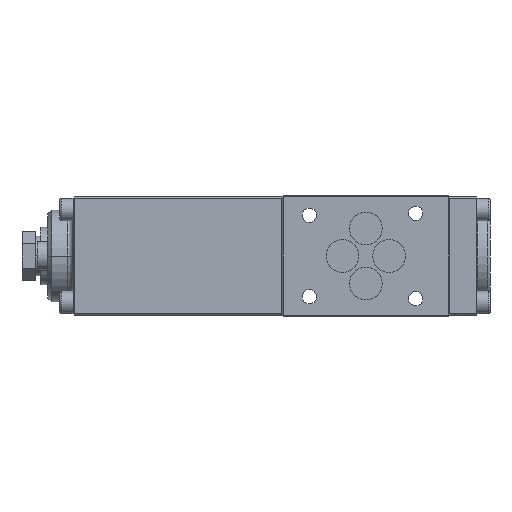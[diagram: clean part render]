
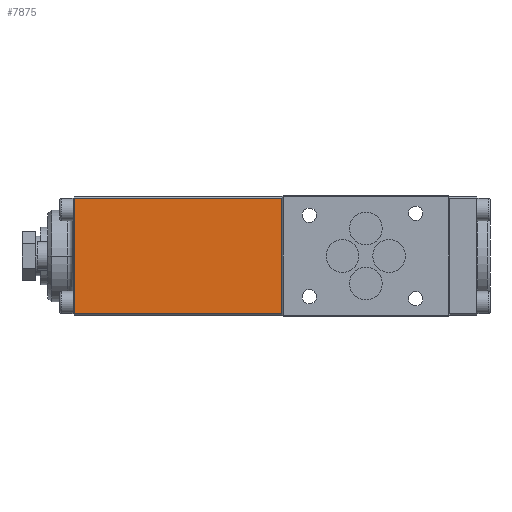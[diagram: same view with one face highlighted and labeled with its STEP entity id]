
A CAD part, front view. The second image highlights one B-rep face of the part: STEP entity #7875.
In plain terms, the highlighted planar face has unit normal (0, -1, 0).
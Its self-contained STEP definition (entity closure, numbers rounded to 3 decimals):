
#425 = EDGE_CURVE ( 'NONE', #10907, #20591, #9730, .T. ) ;
#758 = EDGE_CURVE ( 'NONE', #2836, #2951, #2473, .T. ) ;
#1189 = CARTESIAN_POINT ( 'NONE',  ( 0., -22.5, 22. ) ) ;
#1298 = CARTESIAN_POINT ( 'NONE',  ( -79., -22.5, -22. ) ) ;
#2473 = LINE ( 'NONE', #7494, #4910 ) ;
#2679 = ORIENTED_EDGE ( 'NONE', *, *, #758, .T. ) ;
#2720 = CARTESIAN_POINT ( 'NONE',  ( -25., -22.5, 22.5 ) ) ;
#2836 = VERTEX_POINT ( 'NONE', #1298 ) ;
#2951 = VERTEX_POINT ( 'NONE', #21289 ) ;
#3489 = EDGE_CURVE ( 'NONE', #2951, #10907, #8977, .T. ) ;
#3858 = DIRECTION ( 'NONE',  ( 1., 0., 0. ) ) ;
#4135 = DIRECTION ( 'NONE',  ( 0., 0., 1. ) ) ;
#4910 = VECTOR ( 'NONE', #3858, 1000. ) ;
#5093 = LINE ( 'NONE', #18581, #11789 ) ;
#7103 = VECTOR ( 'NONE', #13278, 1000. ) ;
#7215 = DIRECTION ( 'NONE',  ( 0., 1., 0. ) ) ;
#7434 = VECTOR ( 'NONE', #12428, 1000. ) ;
#7494 = CARTESIAN_POINT ( 'NONE',  ( -25., -22.5, -22. ) ) ;
#7875 = ADVANCED_FACE ( 'NONE', ( #18653 ), #21678, .F. ) ;
#8241 = ORIENTED_EDGE ( 'NONE', *, *, #3489, .T. ) ;
#8977 = LINE ( 'NONE', #14356, #7434 ) ;
#9051 = CARTESIAN_POINT ( 'NONE',  ( -79., -22.5, 22. ) ) ;
#9730 = LINE ( 'NONE', #18220, #7103 ) ;
#10343 = ORIENTED_EDGE ( 'NONE', *, *, #425, .T. ) ;
#10907 = VERTEX_POINT ( 'NONE', #1189 ) ;
#11686 = DIRECTION ( 'NONE',  ( 0., 0., -1. ) ) ;
#11789 = VECTOR ( 'NONE', #11686, 1000. ) ;
#12428 = DIRECTION ( 'NONE',  ( 0., 0., 1. ) ) ;
#13278 = DIRECTION ( 'NONE',  ( -1., 0., 0. ) ) ;
#13696 = EDGE_CURVE ( 'NONE', #20591, #2836, #5093, .T. ) ;
#13867 = EDGE_LOOP ( 'NONE', ( #18180, #2679, #8241, #10343 ) ) ;
#14060 = AXIS2_PLACEMENT_3D ( 'NONE', #2720, #7215, #4135 ) ;
#14356 = CARTESIAN_POINT ( 'NONE',  ( 0., -22.5, -22.5 ) ) ;
#18180 = ORIENTED_EDGE ( 'NONE', *, *, #13696, .T. ) ;
#18220 = CARTESIAN_POINT ( 'NONE',  ( -25., -22.5, 22. ) ) ;
#18581 = CARTESIAN_POINT ( 'NONE',  ( -79., -22.5, -22.5 ) ) ;
#18653 = FACE_OUTER_BOUND ( 'NONE', #13867, .T. ) ;
#20591 = VERTEX_POINT ( 'NONE', #9051 ) ;
#21289 = CARTESIAN_POINT ( 'NONE',  ( 0., -22.5, -22. ) ) ;
#21678 = PLANE ( 'NONE',  #14060 ) ;
